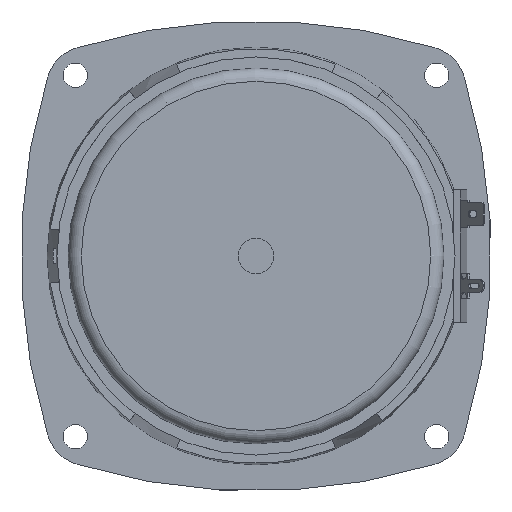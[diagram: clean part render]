
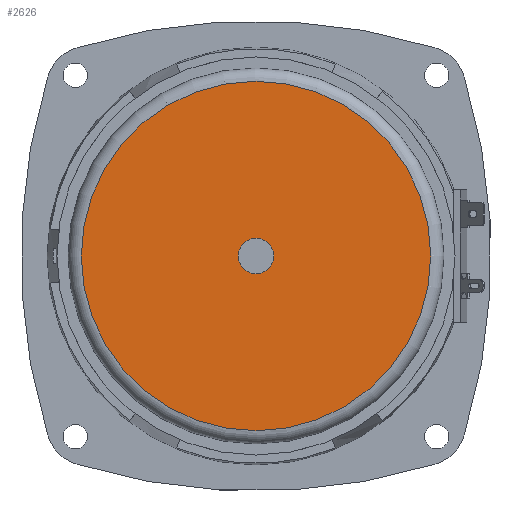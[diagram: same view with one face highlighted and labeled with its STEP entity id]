
A CAD part, front view. The second image highlights one B-rep face of the part: STEP entity #2626.
In plain terms, the highlighted planar face has unit normal (0, -1, 0).
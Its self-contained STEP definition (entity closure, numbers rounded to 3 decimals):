
#76=FACE_BOUND('',#815,.T.);
#645=FACE_OUTER_BOUND('',#814,.T.);
#814=EDGE_LOOP('',(#2165));
#815=EDGE_LOOP('',(#2166));
#1001=CIRCLE('',#2905,39.5);
#1003=CIRCLE('',#2908,4.);
#1198=VERTEX_POINT('',#5154);
#1199=VERTEX_POINT('',#5158);
#1534=EDGE_CURVE('',#1198,#1198,#1001,.T.);
#1536=EDGE_CURVE('',#1199,#1199,#1003,.T.);
#2165=ORIENTED_EDGE('',*,*,#1534,.F.);
#2166=ORIENTED_EDGE('',*,*,#1536,.T.);
#2501=PLANE('',#2907);
#2626=ADVANCED_FACE('',(#645,#76),#2501,.T.);
#2905=AXIS2_PLACEMENT_3D('',#5155,#3519,#3520);
#2907=AXIS2_PLACEMENT_3D('',#5157,#3523,#3524);
#2908=AXIS2_PLACEMENT_3D('',#5159,#3525,#3526);
#3519=DIRECTION('center_axis',(0.,1.,0.));
#3520=DIRECTION('ref_axis',(1.,0.,0.));
#3523=DIRECTION('center_axis',(0.,-1.,0.));
#3524=DIRECTION('ref_axis',(-1.,0.,0.));
#3525=DIRECTION('center_axis',(0.,1.,0.));
#3526=DIRECTION('ref_axis',(1.,0.,0.));
#5154=CARTESIAN_POINT('',(-39.499,-25.,-0.23));
#5155=CARTESIAN_POINT('Origin',(0.,-25.,0.));
#5157=CARTESIAN_POINT('Origin',(0.,-25.,0.));
#5158=CARTESIAN_POINT('',(4.,-25.,0.));
#5159=CARTESIAN_POINT('Origin',(0.,-25.,0.));
